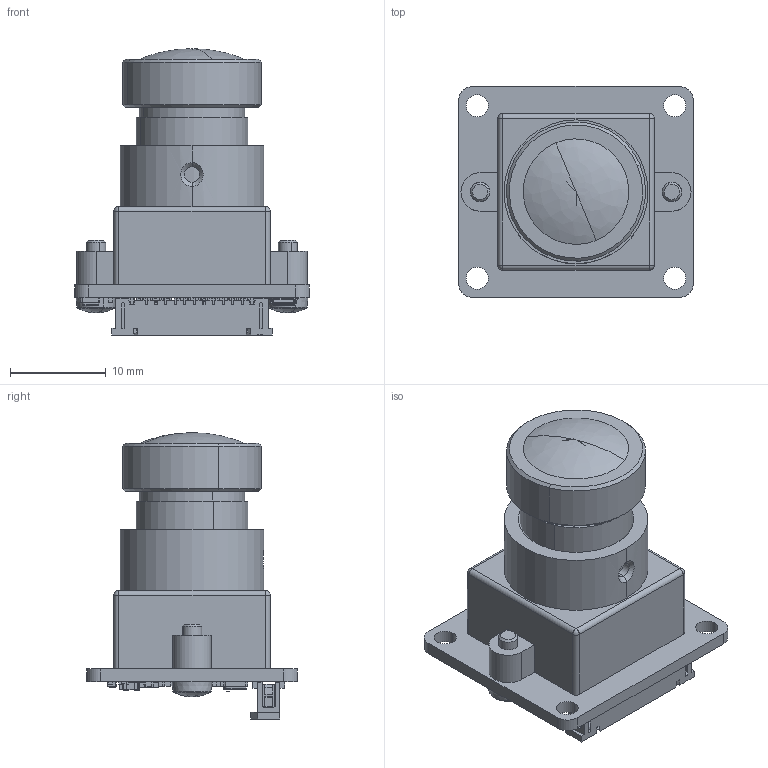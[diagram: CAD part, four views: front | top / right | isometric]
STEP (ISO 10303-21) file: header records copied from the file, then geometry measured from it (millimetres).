
FILE_DESCRIPTION((''),'2;1');
FILE_NAME('DS-CIMX335-22-28_LIGHT','2025-03-13T',('admin'),(''),'CREO PARAMETRIC BY PTC INC, 2017300','CREO PARAMETRIC BY PTC INC, 2017300','');
FILE_SCHEMA(('AUTOMOTIVE_DESIGN { 1 0 10303 214 1 1 1 1 }'));
Length unit declared in the file: millimetre
Products named in the file (1): DS-CIMX335-22-28_LIGHT
Bounding box: 24.5 x 22 x 29.84 mm (x, y, z)
Surface area: 3522 mm2 (no closed solid volume)
Topology: 0 solids, 261 shells, 759 faces, 2970 edges, 2455 vertices
Faces by surface type: plane 607, cylinder 95, bspline 26, cone 17, torus 8, sphere 6
Entity records: 36784 total; most frequent: CARTESIAN_POINT 7803, DIRECTION 4732, ORIENTED_EDGE 3728, EDGE_CURVE 2962, VECTOR 2482, LINE 2482, VERTEX_POINT 2455, AXIS2_PLACEMENT_3D 1125
